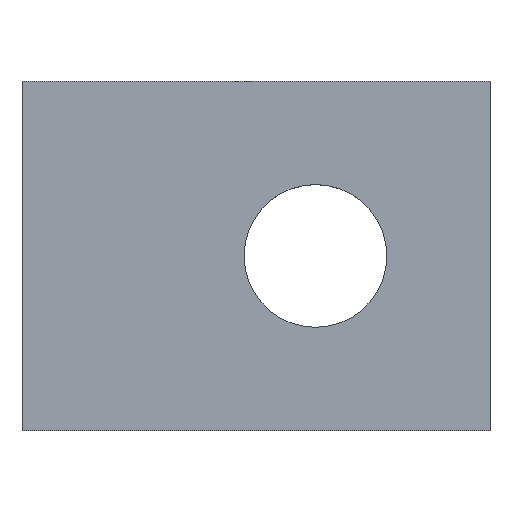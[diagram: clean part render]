
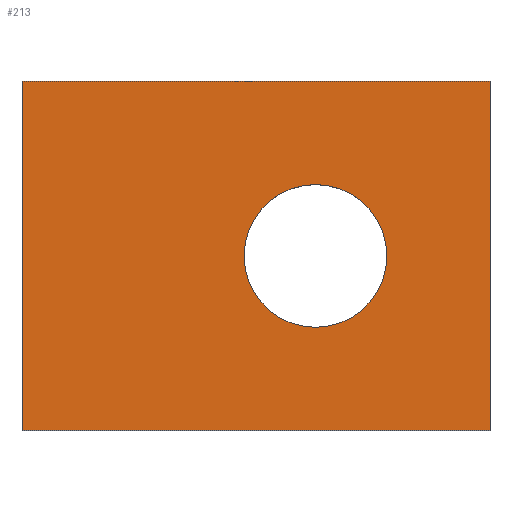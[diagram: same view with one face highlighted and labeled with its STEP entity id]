
A CAD part, top view. The second image highlights one B-rep face of the part: STEP entity #213.
In plain terms, the highlighted planar face has unit normal (0, 0, 1).
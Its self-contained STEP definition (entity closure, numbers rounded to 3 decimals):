
#24 = VERTEX_POINT('',#25);
#25 = CARTESIAN_POINT('',(12.9,-41.7,9.3));
#32 = PLANE('',#33);
#33 = AXIS2_PLACEMENT_3D('',#34,#35,#36);
#34 = CARTESIAN_POINT('',(12.9,-41.7,7.7));
#35 = DIRECTION('',(1.,0.,0.));
#36 = DIRECTION('',(0.,0.,1.));
#44 = PLANE('',#45);
#45 = AXIS2_PLACEMENT_3D('',#46,#47,#48);
#46 = CARTESIAN_POINT('',(12.9,-41.7,7.7));
#47 = DIRECTION('',(0.,1.,0.));
#48 = DIRECTION('',(0.,-0.,1.));
#85 = VERTEX_POINT('',#86);
#86 = CARTESIAN_POINT('',(12.9,-37.3,9.3));
#100 = PLANE('',#101);
#101 = AXIS2_PLACEMENT_3D('',#102,#103,#104);
#102 = CARTESIAN_POINT('',(12.9,-37.3,7.7));
#103 = DIRECTION('',(0.,1.,0.));
#104 = DIRECTION('',(0.,-0.,1.));
#112 = EDGE_CURVE('',#24,#85,#113,.T.);
#113 = SURFACE_CURVE('',#114,(#118,#125),.PCURVE_S1.);
#114 = LINE('',#115,#116);
#115 = CARTESIAN_POINT('',(12.9,-41.7,9.3));
#116 = VECTOR('',#117,1.);
#117 = DIRECTION('',(0.,1.,0.));
#118 = PCURVE('',#32,#119);
#119 = DEFINITIONAL_REPRESENTATION('',(#120),#124);
#120 = LINE('',#121,#122);
#121 = CARTESIAN_POINT('',(1.6,0.));
#122 = VECTOR('',#123,1.);
#123 = DIRECTION('',(0.,-1.));
#124 = ( GEOMETRIC_REPRESENTATION_CONTEXT(2) 
PARAMETRIC_REPRESENTATION_CONTEXT() REPRESENTATION_CONTEXT('2D SPACE',''
  ) );
#125 = PCURVE('',#126,#131);
#126 = PLANE('',#127);
#127 = AXIS2_PLACEMENT_3D('',#128,#129,#130);
#128 = CARTESIAN_POINT('',(12.9,-41.7,9.3));
#129 = DIRECTION('',(0.,0.,1.));
#130 = DIRECTION('',(1.,0.,-0.));
#131 = DEFINITIONAL_REPRESENTATION('',(#132),#136);
#132 = LINE('',#133,#134);
#133 = CARTESIAN_POINT('',(0.,0.));
#134 = VECTOR('',#135,1.);
#135 = DIRECTION('',(0.,1.));
#136 = ( GEOMETRIC_REPRESENTATION_CONTEXT(2) 
PARAMETRIC_REPRESENTATION_CONTEXT() REPRESENTATION_CONTEXT('2D SPACE',''
  ) );
#165 = EDGE_CURVE('',#24,#166,#168,.T.);
#166 = VERTEX_POINT('',#167);
#167 = CARTESIAN_POINT('',(18.8,-41.7,9.3));
#168 = SURFACE_CURVE('',#169,(#173,#180),.PCURVE_S1.);
#169 = LINE('',#170,#171);
#170 = CARTESIAN_POINT('',(12.9,-41.7,9.3));
#171 = VECTOR('',#172,1.);
#172 = DIRECTION('',(1.,0.,0.));
#173 = PCURVE('',#44,#174);
#174 = DEFINITIONAL_REPRESENTATION('',(#175),#179);
#175 = LINE('',#176,#177);
#176 = CARTESIAN_POINT('',(1.6,0.));
#177 = VECTOR('',#178,1.);
#178 = DIRECTION('',(0.,1.));
#179 = ( GEOMETRIC_REPRESENTATION_CONTEXT(2) 
PARAMETRIC_REPRESENTATION_CONTEXT() REPRESENTATION_CONTEXT('2D SPACE',''
  ) );
#180 = PCURVE('',#126,#181);
#181 = DEFINITIONAL_REPRESENTATION('',(#182),#186);
#182 = LINE('',#183,#184);
#183 = CARTESIAN_POINT('',(0.,0.));
#184 = VECTOR('',#185,1.);
#185 = DIRECTION('',(1.,0.));
#186 = ( GEOMETRIC_REPRESENTATION_CONTEXT(2) 
PARAMETRIC_REPRESENTATION_CONTEXT() REPRESENTATION_CONTEXT('2D SPACE',''
  ) );
#202 = PLANE('',#203);
#203 = AXIS2_PLACEMENT_3D('',#204,#205,#206);
#204 = CARTESIAN_POINT('',(18.8,-41.7,7.7));
#205 = DIRECTION('',(1.,0.,0.));
#206 = DIRECTION('',(0.,0.,1.));
#213 = ADVANCED_FACE('',(#214,#262),#126,.T.);
#214 = FACE_BOUND('',#215,.T.);
#215 = EDGE_LOOP('',(#216,#217,#218,#241));
#216 = ORIENTED_EDGE('',*,*,#112,.F.);
#217 = ORIENTED_EDGE('',*,*,#165,.T.);
#218 = ORIENTED_EDGE('',*,*,#219,.T.);
#219 = EDGE_CURVE('',#166,#220,#222,.T.);
#220 = VERTEX_POINT('',#221);
#221 = CARTESIAN_POINT('',(18.8,-37.3,9.3));
#222 = SURFACE_CURVE('',#223,(#227,#234),.PCURVE_S1.);
#223 = LINE('',#224,#225);
#224 = CARTESIAN_POINT('',(18.8,-41.7,9.3));
#225 = VECTOR('',#226,1.);
#226 = DIRECTION('',(0.,1.,0.));
#227 = PCURVE('',#126,#228);
#228 = DEFINITIONAL_REPRESENTATION('',(#229),#233);
#229 = LINE('',#230,#231);
#230 = CARTESIAN_POINT('',(5.9,0.));
#231 = VECTOR('',#232,1.);
#232 = DIRECTION('',(0.,1.));
#233 = ( GEOMETRIC_REPRESENTATION_CONTEXT(2) 
PARAMETRIC_REPRESENTATION_CONTEXT() REPRESENTATION_CONTEXT('2D SPACE',''
  ) );
#234 = PCURVE('',#202,#235);
#235 = DEFINITIONAL_REPRESENTATION('',(#236),#240);
#236 = LINE('',#237,#238);
#237 = CARTESIAN_POINT('',(1.6,0.));
#238 = VECTOR('',#239,1.);
#239 = DIRECTION('',(0.,-1.));
#240 = ( GEOMETRIC_REPRESENTATION_CONTEXT(2) 
PARAMETRIC_REPRESENTATION_CONTEXT() REPRESENTATION_CONTEXT('2D SPACE',''
  ) );
#241 = ORIENTED_EDGE('',*,*,#242,.F.);
#242 = EDGE_CURVE('',#85,#220,#243,.T.);
#243 = SURFACE_CURVE('',#244,(#248,#255),.PCURVE_S1.);
#244 = LINE('',#245,#246);
#245 = CARTESIAN_POINT('',(12.9,-37.3,9.3));
#246 = VECTOR('',#247,1.);
#247 = DIRECTION('',(1.,0.,0.));
#248 = PCURVE('',#126,#249);
#249 = DEFINITIONAL_REPRESENTATION('',(#250),#254);
#250 = LINE('',#251,#252);
#251 = CARTESIAN_POINT('',(0.,4.4));
#252 = VECTOR('',#253,1.);
#253 = DIRECTION('',(1.,0.));
#254 = ( GEOMETRIC_REPRESENTATION_CONTEXT(2) 
PARAMETRIC_REPRESENTATION_CONTEXT() REPRESENTATION_CONTEXT('2D SPACE',''
  ) );
#255 = PCURVE('',#100,#256);
#256 = DEFINITIONAL_REPRESENTATION('',(#257),#261);
#257 = LINE('',#258,#259);
#258 = CARTESIAN_POINT('',(1.6,0.));
#259 = VECTOR('',#260,1.);
#260 = DIRECTION('',(0.,1.));
#261 = ( GEOMETRIC_REPRESENTATION_CONTEXT(2) 
PARAMETRIC_REPRESENTATION_CONTEXT() REPRESENTATION_CONTEXT('2D SPACE',''
  ) );
#262 = FACE_BOUND('',#263,.T.);
#263 = EDGE_LOOP('',(#264));
#264 = ORIENTED_EDGE('',*,*,#265,.T.);
#265 = EDGE_CURVE('',#266,#266,#268,.T.);
#266 = VERTEX_POINT('',#267);
#267 = CARTESIAN_POINT('',(17.5,-39.5,9.3));
#268 = SURFACE_CURVE('',#269,(#274,#285),.PCURVE_S1.);
#269 = CIRCLE('',#270,0.9);
#270 = AXIS2_PLACEMENT_3D('',#271,#272,#273);
#271 = CARTESIAN_POINT('',(16.6,-39.5,9.3));
#272 = DIRECTION('',(0.,0.,-1.));
#273 = DIRECTION('',(1.,0.,0.));
#274 = PCURVE('',#126,#275);
#275 = DEFINITIONAL_REPRESENTATION('',(#276),#284);
#276 = ( BOUNDED_CURVE() B_SPLINE_CURVE(2,(#277,#278,#279,#280,#281,#282
,#283),.UNSPECIFIED.,.T.,.F.) B_SPLINE_CURVE_WITH_KNOTS((1,2,2,2,2,1),(
    -2.094,0.,2.094,4.189,6.283,
8.378),.UNSPECIFIED.) CURVE() GEOMETRIC_REPRESENTATION_ITEM() 
RATIONAL_B_SPLINE_CURVE((1.,0.5,1.,0.5,1.,0.5,1.)) REPRESENTATION_ITEM(
  '') );
#277 = CARTESIAN_POINT('',(4.6,2.2));
#278 = CARTESIAN_POINT('',(4.6,0.641));
#279 = CARTESIAN_POINT('',(3.25,1.421));
#280 = CARTESIAN_POINT('',(1.9,2.2));
#281 = CARTESIAN_POINT('',(3.25,2.979));
#282 = CARTESIAN_POINT('',(4.6,3.759));
#283 = CARTESIAN_POINT('',(4.6,2.2));
#284 = ( GEOMETRIC_REPRESENTATION_CONTEXT(2) 
PARAMETRIC_REPRESENTATION_CONTEXT() REPRESENTATION_CONTEXT('2D SPACE',''
  ) );
#285 = PCURVE('',#286,#291);
#286 = CYLINDRICAL_SURFACE('',#287,0.9);
#287 = AXIS2_PLACEMENT_3D('',#288,#289,#290);
#288 = CARTESIAN_POINT('',(16.6,-39.5,7.6));
#289 = DIRECTION('',(-0.,-0.,-1.));
#290 = DIRECTION('',(1.,0.,0.));
#291 = DEFINITIONAL_REPRESENTATION('',(#292),#296);
#292 = LINE('',#293,#294);
#293 = CARTESIAN_POINT('',(0.,-1.7));
#294 = VECTOR('',#295,1.);
#295 = DIRECTION('',(1.,-0.));
#296 = ( GEOMETRIC_REPRESENTATION_CONTEXT(2) 
PARAMETRIC_REPRESENTATION_CONTEXT() REPRESENTATION_CONTEXT('2D SPACE',''
  ) );
